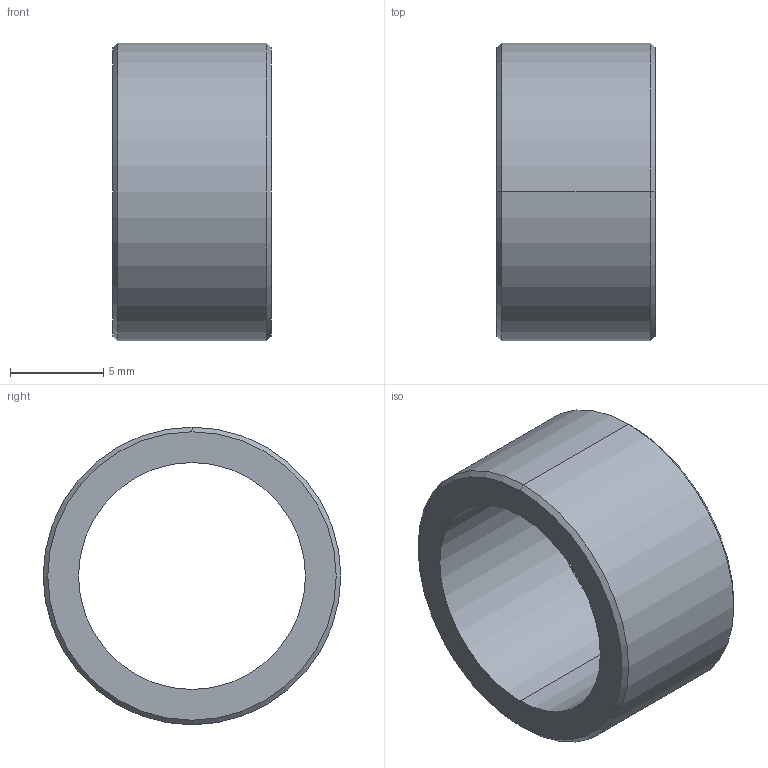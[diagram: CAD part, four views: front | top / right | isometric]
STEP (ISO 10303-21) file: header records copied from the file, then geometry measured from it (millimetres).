
FILE_DESCRIPTION (( 'STEP AP203' ), '1' );
FILE_NAME ('69000712_D16d12,2L8,5.STEP', '2018-06-22T12:38:16', ( '' ), ( '' ), 'SwSTEP 2.0', 'SolidWorks 2015', '' );
FILE_SCHEMA (( 'CONFIG_CONTROL_DESIGN' ));
Length unit declared in the file: millimetre
Products named in the file (1): 69000712_D16d12,2L8,5
Bounding box: 8.5 x 16 x 16 mm (x, y, z)
Volume: 712.3 mm3; surface area: 906.5 mm2
Topology: 1 solids, 1 shells, 10 faces, 20 edges, 12 vertices
Faces by surface type: cone 4, cylinder 4, plane 2
Entity records: 345 total; most frequent: DIRECTION 54, CARTESIAN_POINT 43, ORIENTED_EDGE 40, AXIS2_PLACEMENT_3D 23, EDGE_CURVE 20, CIRCLE 12, EDGE_LOOP 12, VERTEX_POINT 12
